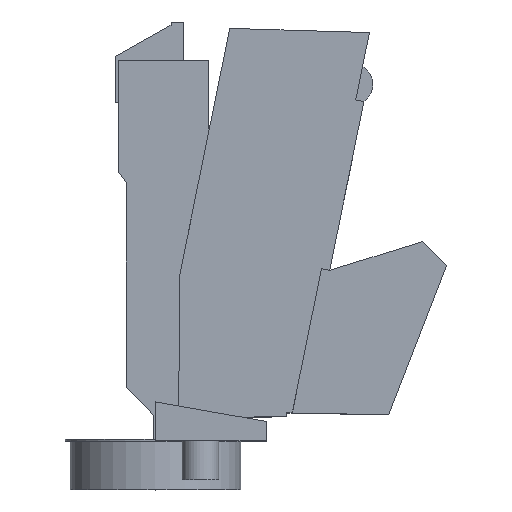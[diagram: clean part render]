
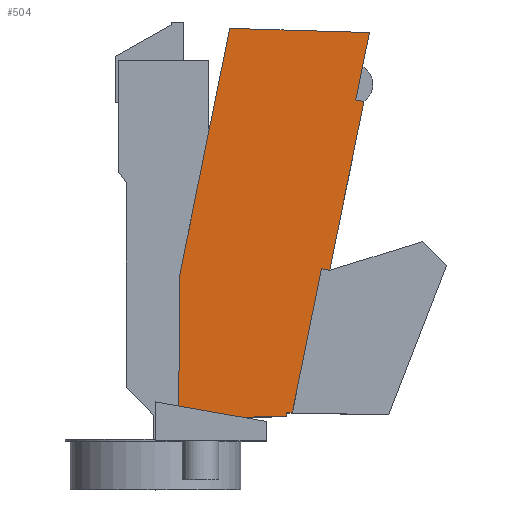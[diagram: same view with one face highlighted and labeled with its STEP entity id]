
A CAD part, top view. The second image highlights one B-rep face of the part: STEP entity #504.
In plain terms, the highlighted planar face has unit normal (0, 0, 1).
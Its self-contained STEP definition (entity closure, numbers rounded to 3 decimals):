
#67 = AXIS2_PLACEMENT_3D ( 'NONE', #1970, #1962, #1961 ) ;
#89 = AXIS2_PLACEMENT_3D ( 'NONE', #1335, #1334, #1332 ) ;
#111 = EDGE_CURVE ( 'NONE', #1304, #1310, #1565, .T. ) ;
#186 = EDGE_CURVE ( 'NONE', #1469, #1467, #916, .T. ) ;
#187 = EDGE_CURVE ( 'NONE', #1304, #1460, #917, .T. ) ;
#188 = EDGE_CURVE ( 'NONE', #1460, #1458, #934, .T. ) ;
#189 = EDGE_CURVE ( 'NONE', #1458, #1469, #915, .T. ) ;
#190 = EDGE_CURVE ( 'NONE', #1467, #1474, #914, .T. ) ;
#191 = EDGE_CURVE ( 'NONE', #1474, #1494, #912, .T. ) ;
#192 = EDGE_CURVE ( 'NONE', #1481, #1494, #909, .T. ) ;
#193 = EDGE_CURVE ( 'NONE', #1491, #1481, #918, .T. ) ;
#194 = EDGE_CURVE ( 'NONE', #1491, #1501, #903, .T. ) ;
#195 = EDGE_CURVE ( 'NONE', #1501, #1489, #899, .T. ) ;
#196 = EDGE_CURVE ( 'NONE', #1489, #1514, #897, .T. ) ;
#197 = EDGE_CURVE ( 'NONE', #1514, #1310, #654, .T. ) ;
#504 = ADVANCED_FACE ( 'NONE', ( #728 ), #1973, .T. ) ;
#653 = VECTOR ( 'NONE', #1302, 1000. ) ;
#654 = LINE ( 'NONE', #1303, #653 ) ;
#658 = VECTOR ( 'NONE', #1305, 1000. ) ;
#728 = FACE_OUTER_BOUND ( 'NONE', #1598, .T. ) ;
#897 = LINE ( 'NONE', #1306, #658 ) ;
#898 = VECTOR ( 'NONE', #1308, 1000. ) ;
#899 = LINE ( 'NONE', #1309, #898 ) ;
#902 = VECTOR ( 'NONE', #1311, 1000. ) ;
#903 = LINE ( 'NONE', #1312, #902 ) ;
#904 = VECTOR ( 'NONE', #1314, 1000. ) ;
#908 = VECTOR ( 'NONE', #1317, 1000. ) ;
#909 = LINE ( 'NONE', #1319, #908 ) ;
#910 = VECTOR ( 'NONE', #1320, 1000. ) ;
#911 = VECTOR ( 'NONE', #1326, 1000. ) ;
#912 = LINE ( 'NONE', #1321, #910 ) ;
#913 = VECTOR ( 'NONE', #1323, 1000. ) ;
#914 = LINE ( 'NONE', #1324, #913 ) ;
#915 = LINE ( 'NONE', #1327, #911 ) ;
#916 = LINE ( 'NONE', #1337, #921 ) ;
#917 = CIRCLE ( 'NONE', #89, 3. ) ;
#918 = LINE ( 'NONE', #1339, #904 ) ;
#921 = VECTOR ( 'NONE', #1336, 1000. ) ;
#934 = LINE ( 'NONE', #1330, #941 ) ;
#941 = VECTOR ( 'NONE', #1329, 1000. ) ;
#1096 = DIRECTION ( 'NONE',  ( -0.985, 0.174, 0. ) ) ;
#1098 = CARTESIAN_POINT ( 'NONE',  ( 12., 8.011, 12.1 ) ) ;
#1302 = DIRECTION ( 'NONE',  ( -0.009, -1., 0. ) ) ;
#1303 = CARTESIAN_POINT ( 'NONE',  ( 16.715, 0., 12.1 ) ) ;
#1304 = VERTEX_POINT ( 'NONE', #1809 ) ;
#1305 = DIRECTION ( 'NONE',  ( -0.199, -0.98, 0. ) ) ;
#1306 = CARTESIAN_POINT ( 'NONE',  ( 27.265, 84.772, 12.1 ) ) ;
#1308 = DIRECTION ( 'NONE',  ( -1., 0.03, 0. ) ) ;
#1309 = CARTESIAN_POINT ( 'NONE',  ( 55.963, 83.91, 12.1 ) ) ;
#1310 = VERTEX_POINT ( 'NONE', #1811 ) ;
#1311 = DIRECTION ( 'NONE',  ( 0.199, 0.98, 0. ) ) ;
#1312 = CARTESIAN_POINT ( 'NONE',  ( 54.553, 76.962, 12.1 ) ) ;
#1314 = DIRECTION ( 'NONE',  ( 0.98, -0.199, 0. ) ) ;
#1317 = DIRECTION ( 'NONE',  ( -0.199, -0.98, 0. ) ) ;
#1319 = CARTESIAN_POINT ( 'NONE',  ( 47.789, 35.073, 12.1 ) ) ;
#1320 = DIRECTION ( 'NONE',  ( 0.98, -0.199, 0. ) ) ;
#1321 = CARTESIAN_POINT ( 'NONE',  ( 11.108, 42.516, 12.1 ) ) ;
#1323 = DIRECTION ( 'NONE',  ( 0.199, 0.98, 0. ) ) ;
#1324 = CARTESIAN_POINT ( 'NONE',  ( 54.553, 76.962, 12.1 ) ) ;
#1326 = DIRECTION ( 'NONE',  ( 0., 1., 0. ) ) ;
#1327 = CARTESIAN_POINT ( 'NONE',  ( 38.88, 5.02, 12.1 ) ) ;
#1329 = DIRECTION ( 'NONE',  ( 1., 0.012, 0. ) ) ;
#1330 = CARTESIAN_POINT ( 'NONE',  ( 30.215, 4.92, 12.1 ) ) ;
#1332 = DIRECTION ( 'NONE',  ( 1., 0., 0. ) ) ;
#1334 = DIRECTION ( 'NONE',  ( 0., 0., -1. ) ) ;
#1335 = CARTESIAN_POINT ( 'NONE',  ( 30.249, 1.92, 12.1 ) ) ;
#1336 = DIRECTION ( 'NONE',  ( 1., -0.017, 0. ) ) ;
#1337 = CARTESIAN_POINT ( 'NONE',  ( 38.88, 5.785, 12.1 ) ) ;
#1339 = CARTESIAN_POINT ( 'NONE',  ( 18.143, 77.186, 12.1 ) ) ;
#1458 = VERTEX_POINT ( 'NONE', #1859 ) ;
#1460 = VERTEX_POINT ( 'NONE', #1860 ) ;
#1467 = VERTEX_POINT ( 'NONE', #1862 ) ;
#1469 = VERTEX_POINT ( 'NONE', #1863 ) ;
#1474 = VERTEX_POINT ( 'NONE', #1864 ) ;
#1481 = VERTEX_POINT ( 'NONE', #1866 ) ;
#1489 = VERTEX_POINT ( 'NONE', #1869 ) ;
#1491 = VERTEX_POINT ( 'NONE', #1870 ) ;
#1494 = VERTEX_POINT ( 'NONE', #1871 ) ;
#1501 = VERTEX_POINT ( 'NONE', #1872 ) ;
#1514 = VERTEX_POINT ( 'NONE', #1876 ) ;
#1564 = VECTOR ( 'NONE', #1096, 1000. ) ;
#1565 = LINE ( 'NONE', #1098, #1564 ) ;
#1598 = EDGE_LOOP ( 'NONE', ( #2056, #2057, #2058, #2059, #2060, #2061, #2062, #2063, #2064, #2065, #2066, #2067, #2068 ) ) ;
#1809 = CARTESIAN_POINT ( 'NONE',  ( 29.76, 4.88, 12.1 ) ) ;
#1811 = CARTESIAN_POINT ( 'NONE',  ( 16.779, 7.169, 12.1 ) ) ;
#1859 = CARTESIAN_POINT ( 'NONE',  ( 38.88, 5.02, 12.1 ) ) ;
#1860 = CARTESIAN_POINT ( 'NONE',  ( 30.215, 4.92, 12.1 ) ) ;
#1862 = CARTESIAN_POINT ( 'NONE',  ( 40.107, 5.764, 12.1 ) ) ;
#1863 = CARTESIAN_POINT ( 'NONE',  ( 38.88, 5.785, 12.1 ) ) ;
#1864 = CARTESIAN_POINT ( 'NONE',  ( 46.123, 35.411, 12.1 ) ) ;
#1866 = CARTESIAN_POINT ( 'NONE',  ( 54.823, 69.744, 12.1 ) ) ;
#1869 = CARTESIAN_POINT ( 'NONE',  ( 27.265, 84.772, 12.1 ) ) ;
#1870 = CARTESIAN_POINT ( 'NONE',  ( 53.157, 70.082, 12.1 ) ) ;
#1871 = CARTESIAN_POINT ( 'NONE',  ( 47.789, 35.073, 12.1 ) ) ;
#1872 = CARTESIAN_POINT ( 'NONE',  ( 55.963, 83.91, 12.1 ) ) ;
#1876 = CARTESIAN_POINT ( 'NONE',  ( 17.02, 34.28, 12.1 ) ) ;
#1961 = DIRECTION ( 'NONE',  ( 1., 0., 0. ) ) ;
#1962 = DIRECTION ( 'NONE',  ( 0., 0., 1. ) ) ;
#1970 = CARTESIAN_POINT ( 'NONE',  ( 52.387, 73.266, 12.1 ) ) ;
#1973 = PLANE ( 'NONE',  #67 ) ;
#2056 = ORIENTED_EDGE ( 'NONE', *, *, #111, .F. ) ;
#2057 = ORIENTED_EDGE ( 'NONE', *, *, #187, .T. ) ;
#2058 = ORIENTED_EDGE ( 'NONE', *, *, #188, .T. ) ;
#2059 = ORIENTED_EDGE ( 'NONE', *, *, #189, .T. ) ;
#2060 = ORIENTED_EDGE ( 'NONE', *, *, #186, .T. ) ;
#2061 = ORIENTED_EDGE ( 'NONE', *, *, #190, .T. ) ;
#2062 = ORIENTED_EDGE ( 'NONE', *, *, #191, .T. ) ;
#2063 = ORIENTED_EDGE ( 'NONE', *, *, #192, .F. ) ;
#2064 = ORIENTED_EDGE ( 'NONE', *, *, #193, .F. ) ;
#2065 = ORIENTED_EDGE ( 'NONE', *, *, #194, .T. ) ;
#2066 = ORIENTED_EDGE ( 'NONE', *, *, #195, .T. ) ;
#2067 = ORIENTED_EDGE ( 'NONE', *, *, #196, .T. ) ;
#2068 = ORIENTED_EDGE ( 'NONE', *, *, #197, .T. ) ;
